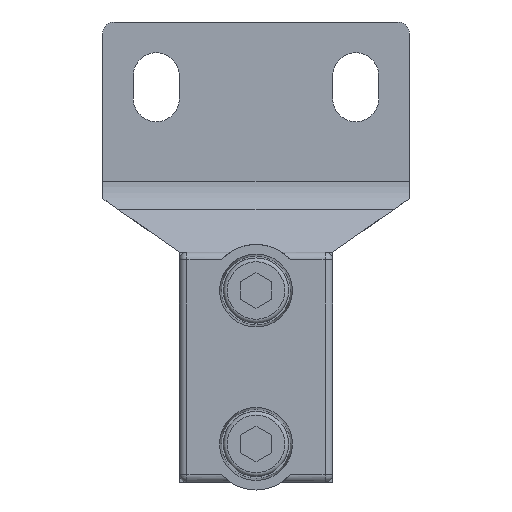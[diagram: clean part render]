
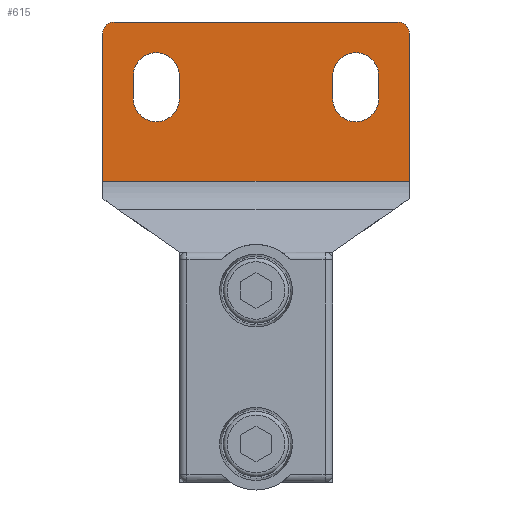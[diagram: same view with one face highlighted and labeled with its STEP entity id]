
A CAD part, front view. The second image highlights one B-rep face of the part: STEP entity #615.
In plain terms, the highlighted planar face has unit normal (0, -1, 0).
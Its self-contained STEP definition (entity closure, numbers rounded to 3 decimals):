
#615 = ADVANCED_FACE( '', ( #1291, #1292, #1293 ), #1294, .F. );
#1291 = FACE_OUTER_BOUND( '', #1985, .T. );
#1292 = FACE_BOUND( '', #1986, .T. );
#1293 = FACE_BOUND( '', #1987, .T. );
#1294 = PLANE( '', #1988 );
#1985 = EDGE_LOOP( '', ( #3647, #3648, #3649, #3650, #3651, #3652 ) );
#1986 = EDGE_LOOP( '', ( #3653, #3654, #3655, #3656 ) );
#1987 = EDGE_LOOP( '', ( #3657, #3658, #3659, #3660 ) );
#1988 = AXIS2_PLACEMENT_3D( '', #3661, #3662, #3663 );
#3647 = ORIENTED_EDGE( '', *, *, #4245, .T. );
#3648 = ORIENTED_EDGE( '', *, *, #4054, .T. );
#3649 = ORIENTED_EDGE( '', *, *, #4024, .T. );
#3650 = ORIENTED_EDGE( '', *, *, #3834, .T. );
#3651 = ORIENTED_EDGE( '', *, *, #4430, .F. );
#3652 = ORIENTED_EDGE( '', *, *, #4176, .T. );
#3653 = ORIENTED_EDGE( '', *, *, #3841, .T. );
#3654 = ORIENTED_EDGE( '', *, *, #3802, .T. );
#3655 = ORIENTED_EDGE( '', *, *, #3972, .T. );
#3656 = ORIENTED_EDGE( '', *, *, #3949, .T. );
#3657 = ORIENTED_EDGE( '', *, *, #4085, .T. );
#3658 = ORIENTED_EDGE( '', *, *, #4394, .T. );
#3659 = ORIENTED_EDGE( '', *, *, #4352, .T. );
#3660 = ORIENTED_EDGE( '', *, *, #4045, .T. );
#3661 = CARTESIAN_POINT( '', ( 20., 15., 60. ) );
#3662 = DIRECTION( '', ( 0., 1., 0. ) );
#3663 = DIRECTION( '', ( 1., 0., 0. ) );
#3802 = EDGE_CURVE( '', #4481, #4479, #4482, .T. );
#3834 = EDGE_CURVE( '', #4538, #4535, #4539, .T. );
#3841 = EDGE_CURVE( '', #4550, #4481, #4551, .T. );
#3949 = EDGE_CURVE( '', #4736, #4550, #4737, .T. );
#3972 = EDGE_CURVE( '', #4479, #4736, #4772, .T. );
#4024 = EDGE_CURVE( '', #4862, #4538, #4863, .T. );
#4045 = EDGE_CURVE( '', #4894, #4892, #4895, .T. );
#4054 = EDGE_CURVE( '', #4906, #4862, #4907, .T. );
#4085 = EDGE_CURVE( '', #4892, #4950, #4952, .T. );
#4176 = EDGE_CURVE( '', #5088, #5086, #5089, .T. );
#4245 = EDGE_CURVE( '', #5086, #4906, #5184, .T. );
#4352 = EDGE_CURVE( '', #5315, #4894, #5316, .T. );
#4394 = EDGE_CURVE( '', #4950, #5315, #5363, .T. );
#4430 = EDGE_CURVE( '', #5088, #4535, #5404, .T. );
#4479 = VERTEX_POINT( '', #5459 );
#4481 = VERTEX_POINT( '', #5462 );
#4482 = LINE( '', #5463, #5464 );
#4535 = VERTEX_POINT( '', #5535 );
#4538 = VERTEX_POINT( '', #5538 );
#4539 = LINE( '', #5539, #5540 );
#4550 = VERTEX_POINT( '', #5552 );
#4551 = CIRCLE( '', #5553, 3. );
#4736 = VERTEX_POINT( '', #5806 );
#4737 = LINE( '', #5807, #5808 );
#4772 = CIRCLE( '', #5854, 3. );
#4862 = VERTEX_POINT( '', #5978 );
#4863 = LINE( '', #5979, #5980 );
#4892 = VERTEX_POINT( '', #6024 );
#4894 = VERTEX_POINT( '', #6027 );
#4895 = CIRCLE( '', #6028, 3. );
#4906 = VERTEX_POINT( '', #6044 );
#4907 = CIRCLE( '', #6045, 1.5 );
#4950 = VERTEX_POINT( '', #6119 );
#4952 = LINE( '', #6122, #6123 );
#5086 = VERTEX_POINT( '', #6505 );
#5088 = VERTEX_POINT( '', #6508 );
#5089 = CIRCLE( '', #6509, 1.5 );
#5184 = LINE( '', #6639, #6640 );
#5315 = VERTEX_POINT( '', #7024 );
#5316 = LINE( '', #7025, #7026 );
#5363 = CIRCLE( '', #7104, 3. );
#5404 = LINE( '', #7155, #7156 );
#5459 = CARTESIAN_POINT( '', ( -10., 15., 50. ) );
#5462 = CARTESIAN_POINT( '', ( -10., 15., 53. ) );
#5463 = CARTESIAN_POINT( '', ( -10., 15., 53. ) );
#5464 = VECTOR( '', #7201, 1000. );
#5535 = CARTESIAN_POINT( '', ( 20., 15., 39.269 ) );
#5538 = CARTESIAN_POINT( '', ( -20., 15., 39.269 ) );
#5539 = CARTESIAN_POINT( '', ( 20., 15., 39.269 ) );
#5540 = VECTOR( '', #7238, 1000. );
#5552 = CARTESIAN_POINT( '', ( -16., 15., 53. ) );
#5553 = AXIS2_PLACEMENT_3D( '', #7252, #7253, #7254 );
#5806 = CARTESIAN_POINT( '', ( -16., 15., 50. ) );
#5807 = CARTESIAN_POINT( '', ( -16., 15., 53. ) );
#5808 = VECTOR( '', #7386, 1000. );
#5854 = AXIS2_PLACEMENT_3D( '', #7413, #7414, #7415 );
#5978 = CARTESIAN_POINT( '', ( -20., 15., 58.5 ) );
#5979 = CARTESIAN_POINT( '', ( -20., 15., 60. ) );
#5980 = VECTOR( '', #7480, 1000. );
#6024 = CARTESIAN_POINT( '', ( 10., 15., 50. ) );
#6027 = CARTESIAN_POINT( '', ( 16., 15., 50. ) );
#6028 = AXIS2_PLACEMENT_3D( '', #7497, #7498, #7499 );
#6044 = CARTESIAN_POINT( '', ( -18.5, 15., 60. ) );
#6045 = AXIS2_PLACEMENT_3D( '', #7505, #7506, #7507 );
#6119 = CARTESIAN_POINT( '', ( 10., 15., 53. ) );
#6122 = CARTESIAN_POINT( '', ( 10., 15., 53. ) );
#6123 = VECTOR( '', #7541, 1000. );
#6505 = CARTESIAN_POINT( '', ( 18.5, 15., 60. ) );
#6508 = CARTESIAN_POINT( '', ( 20., 15., 58.5 ) );
#6509 = AXIS2_PLACEMENT_3D( '', #7633, #7634, #7635 );
#6639 = CARTESIAN_POINT( '', ( 20., 15., 60. ) );
#6640 = VECTOR( '', #7701, 1000. );
#7024 = CARTESIAN_POINT( '', ( 16., 15., 53. ) );
#7025 = CARTESIAN_POINT( '', ( 16., 15., 53. ) );
#7026 = VECTOR( '', #7787, 1000. );
#7104 = AXIS2_PLACEMENT_3D( '', #7814, #7815, #7816 );
#7155 = CARTESIAN_POINT( '', ( 20., 15., 60. ) );
#7156 = VECTOR( '', #7836, 1000. );
#7201 = DIRECTION( '', ( 0., 0., -1. ) );
#7238 = DIRECTION( '', ( 1., 0., 0. ) );
#7252 = CARTESIAN_POINT( '', ( -13., 15., 53. ) );
#7253 = DIRECTION( '', ( 0., 1., 0. ) );
#7254 = DIRECTION( '', ( -1., 0., 0. ) );
#7386 = DIRECTION( '', ( 0., 0., 1. ) );
#7413 = CARTESIAN_POINT( '', ( -13., 15., 50. ) );
#7414 = DIRECTION( '', ( 0., 1., 0. ) );
#7415 = DIRECTION( '', ( 1., 0., 0. ) );
#7480 = DIRECTION( '', ( 0., 0., -1. ) );
#7497 = CARTESIAN_POINT( '', ( 13., 15., 50. ) );
#7498 = DIRECTION( '', ( 0., 1., 0. ) );
#7499 = DIRECTION( '', ( 1., 0., 0. ) );
#7505 = CARTESIAN_POINT( '', ( -18.5, 15., 58.5 ) );
#7506 = DIRECTION( '', ( 0., -1., 0. ) );
#7507 = DIRECTION( '', ( 0., 0., 1. ) );
#7541 = DIRECTION( '', ( 0., 0., 1. ) );
#7633 = CARTESIAN_POINT( '', ( 18.5, 15., 58.5 ) );
#7634 = DIRECTION( '', ( 0., -1., 0. ) );
#7635 = DIRECTION( '', ( 0., 0., 1. ) );
#7701 = DIRECTION( '', ( -1., 0., 0. ) );
#7787 = DIRECTION( '', ( 0., 0., -1. ) );
#7814 = CARTESIAN_POINT( '', ( 13., 15., 53. ) );
#7815 = DIRECTION( '', ( 0., 1., 0. ) );
#7816 = DIRECTION( '', ( -1., 0., 0. ) );
#7836 = DIRECTION( '', ( 0., 0., -1. ) );
